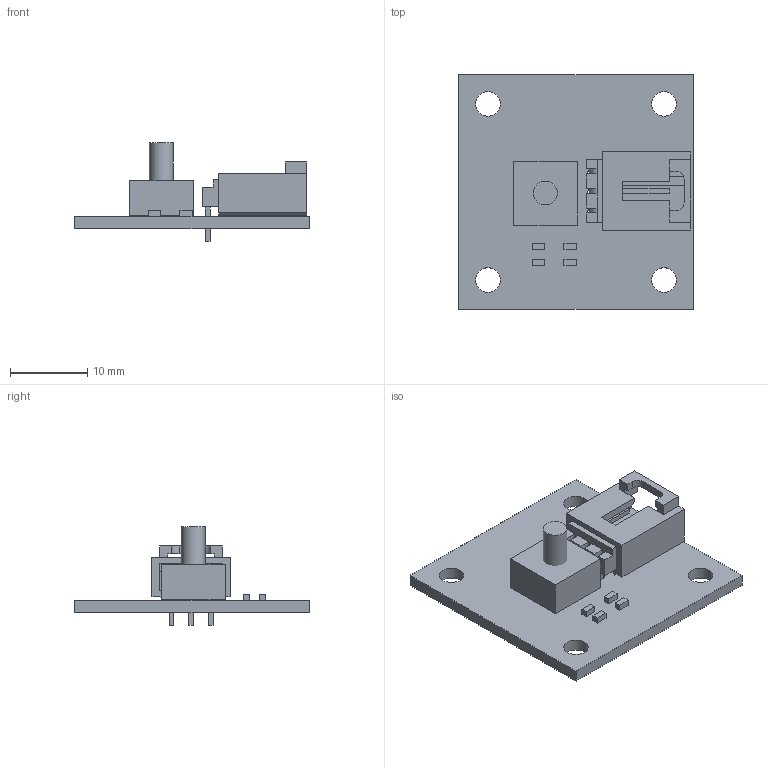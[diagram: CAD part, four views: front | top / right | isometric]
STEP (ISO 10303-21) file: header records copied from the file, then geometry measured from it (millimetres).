
FILE_DESCRIPTION(('Open CASCADE Model'),'2;1');
FILE_NAME('Open CASCADE Shape Model','2010-10-28T09:00:19',('Author'),( 'Open CASCADE'),'Open CASCADE STEP processor 6.2','Open CASCADE 6.2' ,'Unknown');
FILE_SCHEMA(('AUTOMOTIVE_DESIGN { 1 0 10303 214 1 1 1 1 }'));
Length unit declared in the file: millimetre
Products named in the file (17): PCB; Board; R2; 478789824; Extruded; R1; C2; C1; J1; 705530002; Open CASCADE STEP translator 6.2 25.6.1.1; Open CASCADE STEP translator 6.2 25.6.1.2; J2; 828487600; Cylinder; 843824848
Assembly tree (19 placements, depth 4):
  PCB
    Board
    R2
      478789824
        Extruded
    R1
      478789824
        Extruded
    C2
      478789824
        Extruded
    C1
      478789824
        Extruded
    J1
      705530002
        Open CASCADE STEP translator 6.2 25.6.1.1
        Open CASCADE STEP translator 6.2 25.6.1.2
    J2
      828487600
        Cylinder
      843824848
        Extruded
Bounding box: 30.48 x 30.48 x 12.78 mm (x, y, z)
Volume: 2203.9 mm3; surface area: 3276 mm2
Topology: 8 solids, 8 shells, 159 faces, 410 edges, 278 vertices
Faces by surface type: plane 143, cylinder 16
Full cylindrical faces by diameter (mm): 0.965 x3, 3.1 x1, 3.175 x4
Entity records: 9413 total; most frequent: CARTESIAN_POINT 1601, DIRECTION 1422, LINE 1000, VECTOR 1000, ORIENTED_EDGE 730, PCURVE 730, DEFINITIONAL_REPRESENTATION 730, EDGE_CURVE 365
